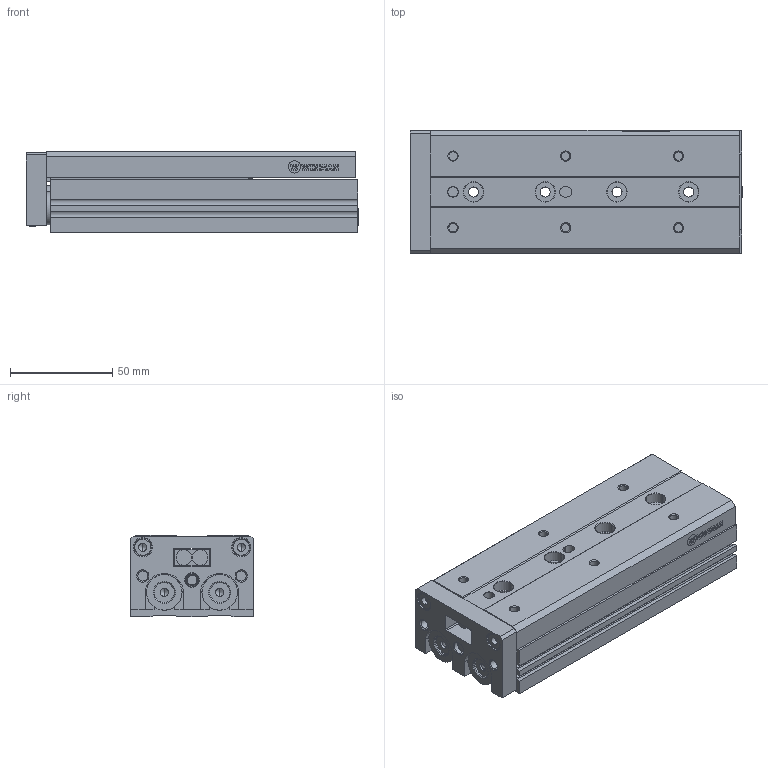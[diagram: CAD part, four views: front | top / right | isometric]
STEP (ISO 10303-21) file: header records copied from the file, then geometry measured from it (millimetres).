
FILE_DESCRIPTION (( 'STEP AP214' ), '1' );
FILE_NAME ('WLS-016-0075S (MDMY).STEP', '2017-02-11T06:17:09', ( 'Hidtek' ), ( '' ), 'SwSTEP 2.0', 'SolidWorks 2016', '' );
FILE_SCHEMA (( 'AUTOMOTIVE_DESIGN' ));
Length unit declared in the file: millimetre
Products named in the file (3): WLS16X75-S(0)-rod; WLS-016-0075S (MDMY); WLS16X75-S(0)-body
Assembly tree (2 placements, depth 2):
  WLS-016-0075S (MDMY)
    WLS16X75-S(0)-body
    WLS16X75-S(0)-rod
Bounding box: 162 x 60 x 40 mm (x, y, z)
Volume: 301904.8 mm3; surface area: 94331.7 mm2
Topology: 2 solids, 2 shells, 520 faces, 1290 edges, 824 vertices
Faces by surface type: plane 250, cylinder 174, cone 90, bspline 6
Entity records: 16607 total; most frequent: CARTESIAN_POINT 2766, DIRECTION 2765, ORIENTED_EDGE 2548, EDGE_CURVE 1274, AXIS2_PLACEMENT_3D 983, VERTEX_POINT 824, LINE 799, VECTOR 799
